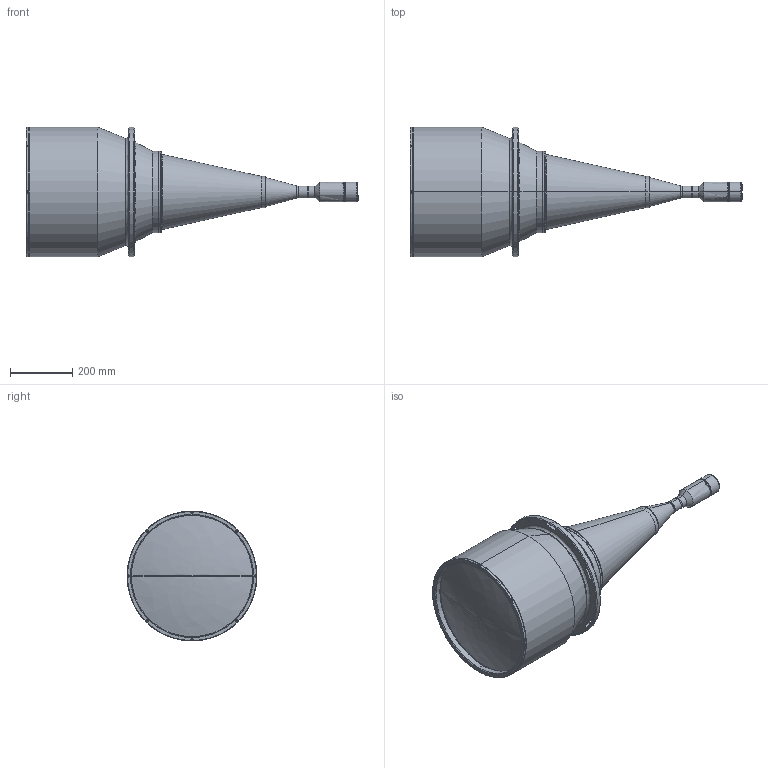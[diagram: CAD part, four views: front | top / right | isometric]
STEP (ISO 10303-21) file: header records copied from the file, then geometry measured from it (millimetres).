
FILE_DESCRIPTION(('LS-TCL-0221'),'2;1');
FILE_NAME('LS-TCL-0221.stp','2026-10-15T21:54:47',('LumaSpec Vision'),('LumaSpec Vision'),'LumaSpec Vision','LumaSpec Vision','');
FILE_SCHEMA(('AUTOMOTIVE_DESIGN { 1 0 10303 214 1 1 1 1 }'));
Length unit declared in the file: millimetre
Products named in the file (244): LumaSpec Vision
Assembly tree (243 placements, depth 2):
  LumaSpec Vision
    LumaSpec Vision
    LumaSpec Vision
    LumaSpec Vision
    LumaSpec Vision
    LumaSpec Vision
    LumaSpec Vision
    LumaSpec Vision
    LumaSpec Vision
    LumaSpec Vision
    LumaSpec Vision
    LumaSpec Vision
    LumaSpec Vision
    LumaSpec Vision
    LumaSpec Vision
    LumaSpec Vision
    LumaSpec Vision
    LumaSpec Vision
    LumaSpec Vision
    LumaSpec Vision
    LumaSpec Vision
    LumaSpec Vision
    LumaSpec Vision
    LumaSpec Vision
    LumaSpec Vision
    LumaSpec Vision
    LumaSpec Vision
    LumaSpec Vision
    LumaSpec Vision
    LumaSpec Vision
    LumaSpec Vision
    LumaSpec Vision
    LumaSpec Vision
    LumaSpec Vision
    LumaSpec Vision
    LumaSpec Vision
    LumaSpec Vision
    LumaSpec Vision
    LumaSpec Vision
    LumaSpec Vision
    LumaSpec Vision
    LumaSpec Vision
    LumaSpec Vision
    LumaSpec Vision
    LumaSpec Vision
    LumaSpec Vision
    LumaSpec Vision
    LumaSpec Vision
    LumaSpec Vision
    LumaSpec Vision
    LumaSpec Vision
    LumaSpec Vision
    LumaSpec Vision
    LumaSpec Vision
    LumaSpec Vision
    LumaSpec Vision
    LumaSpec Vision
    LumaSpec Vision
    LumaSpec Vision
    LumaSpec Vision
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Bounding box: 1066.44 x 417 x 417 mm (x, y, z)
Surface area: 1113641.8 mm2 (no closed solid volume)
Topology: 0 solids, 243 shells, 243 faces, 4983 edges, 4981 vertices
Faces by surface type: revolution 136, bspline 107
Entity records: 83365 total; most frequent: CARTESIAN_POINT 34823, B_SPLINE_CURVE_WITH_KNOTS 8977, ORIENTED_EDGE 4981, EDGE_CURVE 4981, VERTEX_POINT 4981, SURFACE_CURVE 4981, PCURVE 4981, DEFINITIONAL_REPRESENTATION 4981
